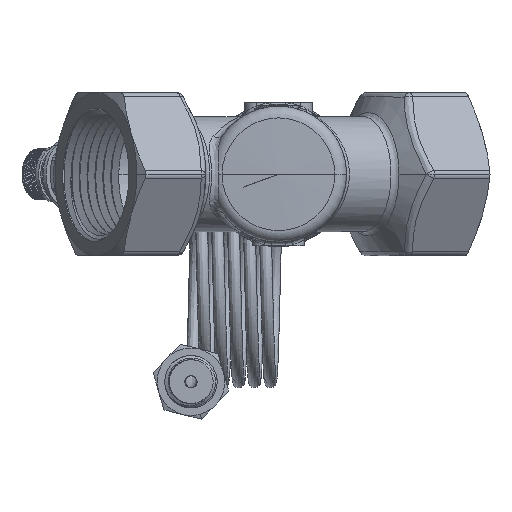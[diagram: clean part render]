
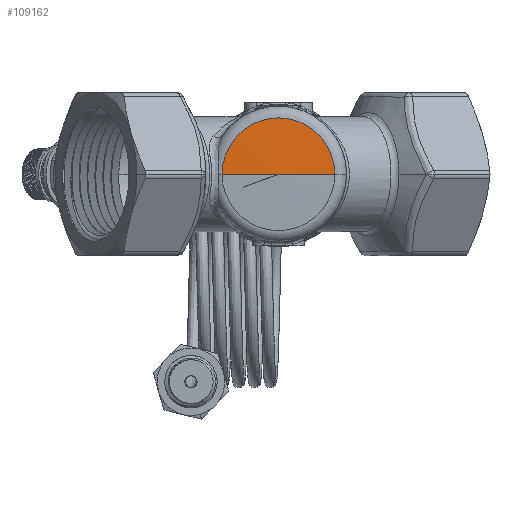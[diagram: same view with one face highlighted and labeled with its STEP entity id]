
A CAD part, front view. The second image highlights one B-rep face of the part: STEP entity #109162.
In plain terms, the highlighted conical face has half-angle 88.5 degrees and reference radius 14.178 mm.
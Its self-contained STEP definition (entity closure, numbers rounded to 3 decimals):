
#2933 = CONICAL_SURFACE ( 'NONE', #45398, 14.179, 1.545 ) ;
#6389 = EDGE_CURVE ( 'NONE', #11977, #128960, #168139, .T. ) ;
#11977 = VERTEX_POINT ( 'NONE', #184787 ) ;
#23418 = CARTESIAN_POINT ( 'NONE',  ( -16.679, -56.929, 0. ) ) ;
#24795 = AXIS2_PLACEMENT_3D ( 'NONE', #109532, #134517, #290675 ) ;
#29194 = EDGE_CURVE ( 'NONE', #199703, #11977, #197409, .T. ) ;
#45398 = AXIS2_PLACEMENT_3D ( 'NONE', #230125, #88259, #205200 ) ;
#48929 = EDGE_CURVE ( 'NONE', #199703, #128960, #324513, .T. ) ;
#88259 = DIRECTION ( 'NONE',  ( 0., 1., 0. ) ) ;
#89934 = VECTOR ( 'NONE', #326152, 1000. ) ;
#95964 = CARTESIAN_POINT ( 'NONE',  ( 11.679, -56.929, 0. ) ) ;
#109162 = ADVANCED_FACE ( 'NONE', ( #184818 ), #2933, .T. ) ;
#109532 = CARTESIAN_POINT ( 'NONE',  ( -2.5, -56.929, 0. ) ) ;
#128417 = ORIENTED_EDGE ( 'NONE', *, *, #6389, .T. ) ;
#128960 = VERTEX_POINT ( 'NONE', #23418 ) ;
#134517 = DIRECTION ( 'NONE',  ( 0., -1., 0. ) ) ;
#144522 = ORIENTED_EDGE ( 'NONE', *, *, #48929, .F. ) ;
#148300 = CARTESIAN_POINT ( 'NONE',  ( -16.679, -56.929, 0. ) ) ;
#153836 = ORIENTED_EDGE ( 'NONE', *, *, #29194, .T. ) ;
#168139 = CIRCLE ( 'NONE', #24795, 14.179 ) ;
#184787 = CARTESIAN_POINT ( 'NONE',  ( 11.679, -56.929, 0. ) ) ;
#184818 = FACE_OUTER_BOUND ( 'NONE', #302701, .T. ) ;
#197409 = LINE ( 'NONE', #95964, #322302 ) ;
#199703 = VERTEX_POINT ( 'NONE', #255758 ) ;
#200666 = DIRECTION ( 'NONE',  ( 1., 0.026, 0. ) ) ;
#205200 = DIRECTION ( 'NONE',  ( 1., 0., 0. ) ) ;
#230125 = CARTESIAN_POINT ( 'NONE',  ( -2.5, -56.929, 0. ) ) ;
#255758 = CARTESIAN_POINT ( 'NONE',  ( -2.5, -57.3, 0. ) ) ;
#290675 = DIRECTION ( 'NONE',  ( -1., 0., 0. ) ) ;
#302701 = EDGE_LOOP ( 'NONE', ( #144522, #153836, #128417 ) ) ;
#322302 = VECTOR ( 'NONE', #200666, 1000. ) ;
#324513 = LINE ( 'NONE', #148300, #89934 ) ;
#326152 = DIRECTION ( 'NONE',  ( -1., 0.026, 0. ) ) ;
